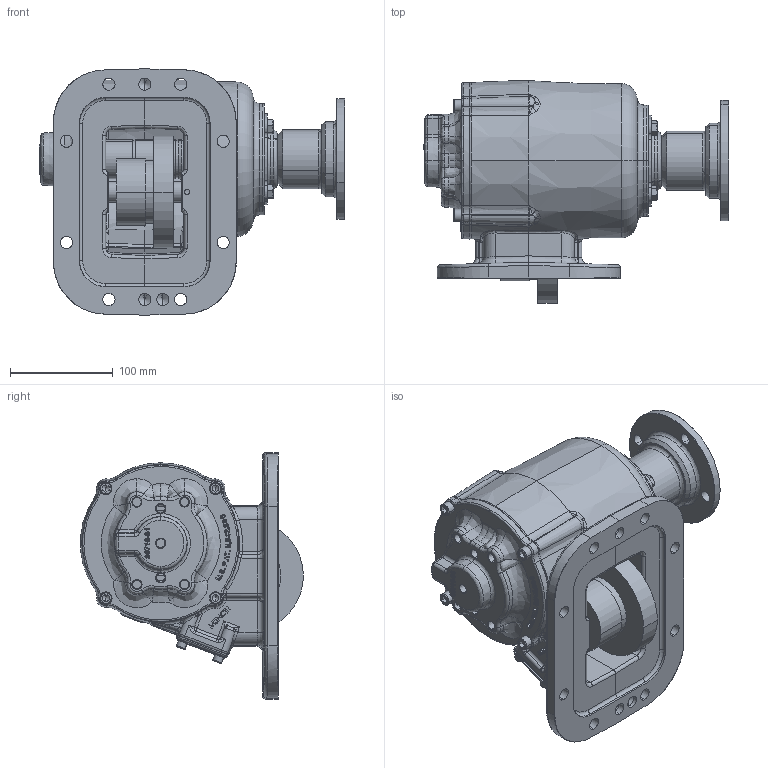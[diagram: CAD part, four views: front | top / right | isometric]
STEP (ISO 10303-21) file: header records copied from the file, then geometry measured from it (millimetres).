
FILE_DESCRIPTION (( 'STEP AP203' ), '1' );
FILE_NAME ('CS8S-XXXXX-X4CX.STEP', '2012-06-12T14:29:22', ( '' ), ( '' ), 'SwSTEP 2.0', 'SolidWorks 2012', '' );
FILE_SCHEMA (( 'CONFIG_CONTROL_DESIGN' ));
Products named in the file (6): CS8S-XXXXX-X4CX; 14T37357; 19T33233; 15T34576; 06t37372a; CS8S-XXXXX-X4XX
Assembly tree (8 placements, depth 2):
  CS8S-XXXXX-X4CX
    CS8S-XXXXX-X4XX
    06t37372a
    15T34576
    19T33233  x4
    14T37357
Bounding box: 297.17 x 216.75 x 239.61 mm (x, y, z)
Volume: 2099156.5 mm3; surface area: 486692.2 mm2
Topology: 4 solids, 24 shells, 2319 faces, 5811 edges, 3596 vertices
Faces by surface type: bspline 757, plane 629, cylinder 520, cone 291, torus 114, sphere 8
Entity records: 115076 total; most frequent: CARTESIAN_POINT 66848, ORIENTED_EDGE 11036, DIRECTION 8101, EDGE_CURVE 5519, VERTEX_POINT 3464, AXIS2_PLACEMENT_3D 3025, EDGE_LOOP 2442, FACE_OUTER_BOUND 2220
